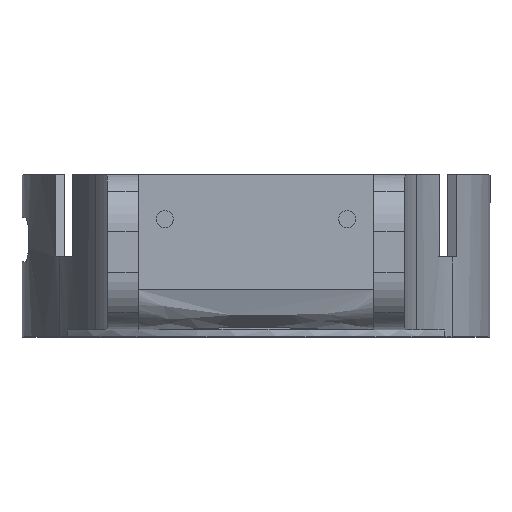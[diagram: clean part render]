
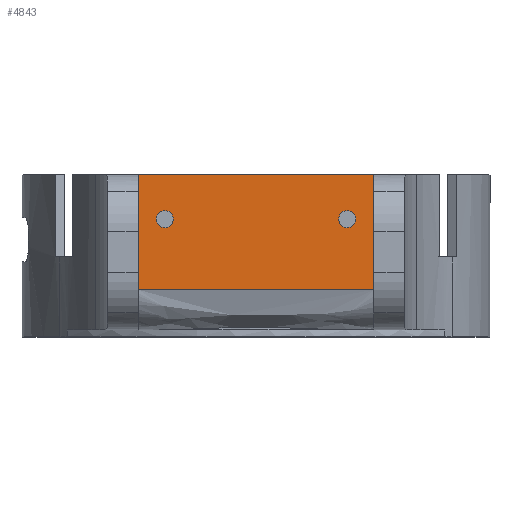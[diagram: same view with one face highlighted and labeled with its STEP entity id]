
A CAD part, top view. The second image highlights one B-rep face of the part: STEP entity #4843.
In plain terms, the highlighted planar face has unit normal (0, 0, 1).
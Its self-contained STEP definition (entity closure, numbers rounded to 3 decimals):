
#87 = VERTEX_POINT ( 'NONE', #3769 ) ;
#103 = EDGE_CURVE ( 'NONE', #3126, #2972, #3185, .T. ) ;
#192 = DIRECTION ( 'NONE',  ( 0., 0., 1. ) ) ;
#230 = B_SPLINE_CURVE_WITH_KNOTS ( 'NONE', 5,
 ( #2691, #4687, #4664, #1213, #1235, #405, #4225, #1996, #3492 ),
 .UNSPECIFIED., .F., .F.,
 ( 6, 3, 6 ),
 ( 0., 0.603, 1. ),
 .UNSPECIFIED. ) ;
#235 = EDGE_CURVE ( 'NONE', #1036, #4273, #1941, .T. ) ;
#248 = CARTESIAN_POINT ( 'NONE',  ( 8.75, -0.15, 22.74 ) ) ;
#262 = FACE_BOUND ( 'NONE', #4049, .T. ) ;
#330 = CARTESIAN_POINT ( 'NONE',  ( 8., -0.15, 22.74 ) ) ;
#350 = LINE ( 'NONE', #833, #3516 ) ;
#405 = CARTESIAN_POINT ( 'NONE',  ( -5.404, -6.349, 22.739 ) ) ;
#428 = AXIS2_PLACEMENT_3D ( 'NONE', #1394, #1450, #2202 ) ;
#557 = VERTEX_POINT ( 'NONE', #2261 ) ;
#587 = CARTESIAN_POINT ( 'NONE',  ( -13.014, -9.45, 22.74 ) ) ;
#593 = EDGE_CURVE ( 'NONE', #4273, #1528, #3404, .T. ) ;
#732 = DIRECTION ( 'NONE',  ( 0., -1., 0. ) ) ;
#786 = CIRCLE ( 'NONE', #1355, 0.75 ) ;
#833 = CARTESIAN_POINT ( 'NONE',  ( -10.314, -9.85, 22.74 ) ) ;
#1019 = DIRECTION ( 'NONE',  ( 0., 0., 1. ) ) ;
#1036 = VERTEX_POINT ( 'NONE', #1038 ) ;
#1038 = CARTESIAN_POINT ( 'NONE',  ( -10.314, 3.75, 22.74 ) ) ;
#1058 = ORIENTED_EDGE ( 'NONE', *, *, #593, .F. ) ;
#1128 = CARTESIAN_POINT ( 'NONE',  ( 7.25, -0.15, 22.74 ) ) ;
#1138 = ORIENTED_EDGE ( 'NONE', *, *, #3862, .F. ) ;
#1158 = EDGE_CURVE ( 'NONE', #1036, #3020, #350, .T. ) ;
#1213 = CARTESIAN_POINT ( 'NONE',  ( 2.847, -6.348, 22.738 ) ) ;
#1234 = CARTESIAN_POINT ( 'NONE',  ( 0., 3.75, 22.74 ) ) ;
#1235 = CARTESIAN_POINT ( 'NONE',  ( -1.278, -6.352, 22.742 ) ) ;
#1312 = CIRCLE ( 'NONE', #428, 0.75 ) ;
#1355 = AXIS2_PLACEMENT_3D ( 'NONE', #2853, #192, #2923 ) ;
#1394 = CARTESIAN_POINT ( 'NONE',  ( 8., -0.15, 22.74 ) ) ;
#1444 = PLANE ( 'NONE',  #2894 ) ;
#1450 = DIRECTION ( 'NONE',  ( 0., 0., 1. ) ) ;
#1528 = VERTEX_POINT ( 'NONE', #4551 ) ;
#1597 = ORIENTED_EDGE ( 'NONE', *, *, #103, .F. ) ;
#1789 = FACE_OUTER_BOUND ( 'NONE', #4348, .T. ) ;
#1859 = DIRECTION ( 'NONE',  ( 1., 0., 0. ) ) ;
#1862 = EDGE_CURVE ( 'NONE', #557, #87, #786, .T. ) ;
#1941 = LINE ( 'NONE', #1234, #2946 ) ;
#1953 = AXIS2_PLACEMENT_3D ( 'NONE', #3382, #2987, #4451 ) ;
#1968 = DIRECTION ( 'NONE',  ( 1., 0., 0. ) ) ;
#1996 = CARTESIAN_POINT ( 'NONE',  ( -8.677, -6.348, 22.738 ) ) ;
#2123 = FACE_BOUND ( 'NONE', #3543, .T. ) ;
#2195 = DIRECTION ( 'NONE',  ( 1., 0., 0. ) ) ;
#2202 = DIRECTION ( 'NONE',  ( 1., 0., 0. ) ) ;
#2261 = CARTESIAN_POINT ( 'NONE',  ( -8.75, -0.15, 22.74 ) ) ;
#2285 = CARTESIAN_POINT ( 'NONE',  ( 10.314, 3.75, 22.74 ) ) ;
#2505 = CARTESIAN_POINT ( 'NONE',  ( -10.314, -6.35, 22.74 ) ) ;
#2609 = ORIENTED_EDGE ( 'NONE', *, *, #1158, .T. ) ;
#2691 = CARTESIAN_POINT ( 'NONE',  ( 10.314, -6.35, 22.74 ) ) ;
#2827 = CIRCLE ( 'NONE', #1953, 0.75 ) ;
#2853 = CARTESIAN_POINT ( 'NONE',  ( -8., -0.15, 22.74 ) ) ;
#2894 = AXIS2_PLACEMENT_3D ( 'NONE', #587, #1019, #2195 ) ;
#2923 = DIRECTION ( 'NONE',  ( 1., 0., 0. ) ) ;
#2946 = VECTOR ( 'NONE', #1968, 1000. ) ;
#2972 = VERTEX_POINT ( 'NONE', #248 ) ;
#2987 = DIRECTION ( 'NONE',  ( 0., 0., 1. ) ) ;
#3020 = VERTEX_POINT ( 'NONE', #2505 ) ;
#3126 = VERTEX_POINT ( 'NONE', #1128 ) ;
#3158 = CARTESIAN_POINT ( 'NONE',  ( 10.314, -9.85, 22.74 ) ) ;
#3175 = ORIENTED_EDGE ( 'NONE', *, *, #4424, .F. ) ;
#3185 = CIRCLE ( 'NONE', #4154, 0.75 ) ;
#3335 = DIRECTION ( 'NONE',  ( 0., 0., 1. ) ) ;
#3344 = ORIENTED_EDGE ( 'NONE', *, *, #1862, .F. ) ;
#3382 = CARTESIAN_POINT ( 'NONE',  ( -8., -0.15, 22.74 ) ) ;
#3404 = LINE ( 'NONE', #3158, #4324 ) ;
#3492 = CARTESIAN_POINT ( 'NONE',  ( -10.314, -6.35, 22.74 ) ) ;
#3516 = VECTOR ( 'NONE', #732, 1000. ) ;
#3543 = EDGE_LOOP ( 'NONE', ( #3590, #3344 ) ) ;
#3590 = ORIENTED_EDGE ( 'NONE', *, *, #4105, .F. ) ;
#3769 = CARTESIAN_POINT ( 'NONE',  ( -7.25, -0.15, 22.74 ) ) ;
#3862 = EDGE_CURVE ( 'NONE', #1528, #3020, #230, .T. ) ;
#4049 = EDGE_LOOP ( 'NONE', ( #3175, #1597 ) ) ;
#4105 = EDGE_CURVE ( 'NONE', #87, #557, #2827, .T. ) ;
#4154 = AXIS2_PLACEMENT_3D ( 'NONE', #330, #3335, #1859 ) ;
#4225 = CARTESIAN_POINT ( 'NONE',  ( -7.04, -6.353, 22.743 ) ) ;
#4233 = ORIENTED_EDGE ( 'NONE', *, *, #235, .F. ) ;
#4271 = DIRECTION ( 'NONE',  ( 0., -1., 0. ) ) ;
#4273 = VERTEX_POINT ( 'NONE', #2285 ) ;
#4324 = VECTOR ( 'NONE', #4271, 1000. ) ;
#4348 = EDGE_LOOP ( 'NONE', ( #1138, #1058, #4233, #2609 ) ) ;
#4424 = EDGE_CURVE ( 'NONE', #2972, #3126, #1312, .T. ) ;
#4451 = DIRECTION ( 'NONE',  ( 1., 0., 0. ) ) ;
#4551 = CARTESIAN_POINT ( 'NONE',  ( 10.314, -6.35, 22.74 ) ) ;
#4664 = CARTESIAN_POINT ( 'NONE',  ( 5.336, -6.353, 22.743 ) ) ;
#4687 = CARTESIAN_POINT ( 'NONE',  ( 7.825, -6.348, 22.738 ) ) ;
#4843 = ADVANCED_FACE ( 'NONE', ( #262, #2123, #1789 ), #1444, .T. ) ;
